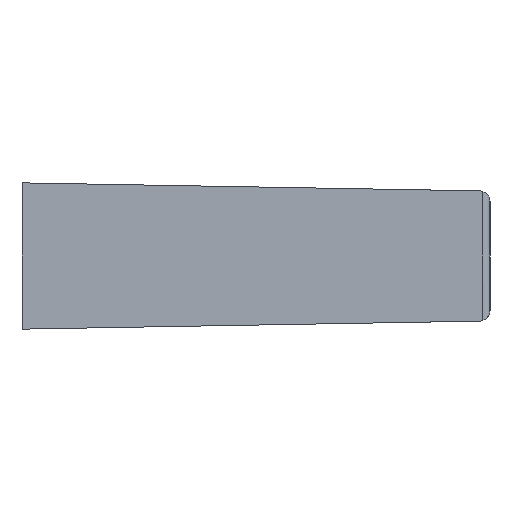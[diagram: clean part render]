
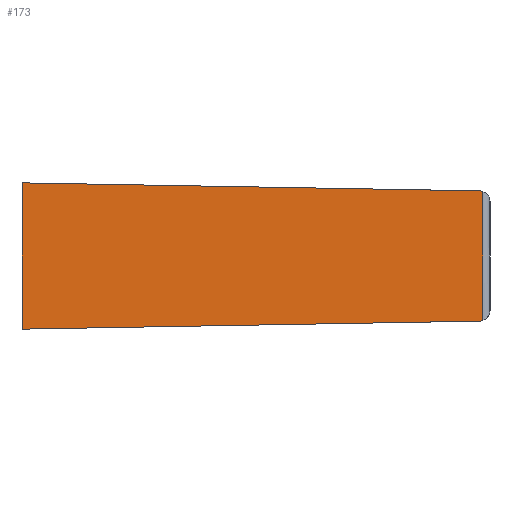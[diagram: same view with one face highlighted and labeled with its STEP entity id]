
A CAD part, left-side view. The second image highlights one B-rep face of the part: STEP entity #173.
In plain terms, the highlighted planar face has unit normal (-0.999, -0.035, 0).
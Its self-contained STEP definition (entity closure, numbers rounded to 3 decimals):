
#145 = VERTEX_POINT( '', #389 );
#147 = EDGE_CURVE( '', #215, #145, #391, .T. );
#155 = EDGE_CURVE( '', #303, #319, #399, .T. );
#173 = ADVANCED_FACE( '', ( #419 ), #420, .T. );
#203 = EDGE_CURVE( '', #319, #263, #452, .T. );
#215 = VERTEX_POINT( '', #465 );
#217 = VERTEX_POINT( '', #467 );
#241 = EDGE_CURVE( '', #217, #303, #491, .T. );
#263 = VERTEX_POINT( '', #514 );
#271 = EDGE_CURVE( '', #145, #217, #523, .T. );
#303 = VERTEX_POINT( '', #560 );
#319 = VERTEX_POINT( '', #579 );
#357 = EDGE_CURVE( '', #215, #263, #623, .T. );
#389 = CARTESIAN_POINT( '', ( -3.908, -31.263, 4.454 ) );
#391 = ELLIPSE( '', #649, 0.75, 0.75 );
#399 = LINE( '', #661, #662 );
#419 = FACE_OUTER_BOUND( '', #691, .T. );
#420 = PLANE( '', #692 );
#452 = ELLIPSE( '', #741, 0.75, 0.75 );
#465 = CARTESIAN_POINT( '', ( -3.899, -31.517, 4.405 ) );
#467 = CARTESIAN_POINT( '', ( -5., 0., 5. ) );
#491 = LINE( '', #795, #796 );
#514 = CARTESIAN_POINT( '', ( -3.899, -31.517, -4.405 ) );
#523 = LINE( '', #844, #845 );
#560 = CARTESIAN_POINT( '', ( -5., 0., -5. ) );
#579 = CARTESIAN_POINT( '', ( -3.908, -31.263, -4.454 ) );
#623 = LINE( '', #999, #1000 );
#649 = AXIS2_PLACEMENT_3D( '', #1029, #1030, #1031 );
#661 = CARTESIAN_POINT( '', ( -4.812, -5.37, -4.906 ) );
#662 = VECTOR( '', #1036, 1. );
#691 = EDGE_LOOP( '', ( #1055, #1056, #1057, #1058, #1059, #1060 ) );
#692 = AXIS2_PLACEMENT_3D( '', #1061, #1062, #1063 );
#741 = AXIS2_PLACEMENT_3D( '', #1091, #1092, #1093 );
#795 = CARTESIAN_POINT( '', ( -5., 0., 5. ) );
#796 = VECTOR( '', #1119, 1. );
#844 = CARTESIAN_POINT( '', ( -4.27, -20.895, 4.635 ) );
#845 = VECTOR( '', #1144, 1. );
#999 = CARTESIAN_POINT( '', ( -3.899, -31.517, 5. ) );
#1000 = VECTOR( '', #1285, 1. );
#1029 = CARTESIAN_POINT( '', ( -3.909, -31.25, 3.704 ) );
#1030 = DIRECTION( '', ( -0.999, -0.035, 0. ) );
#1031 = DIRECTION( '', ( 0.035, -0.999, 0. ) );
#1036 = DIRECTION( '', ( 0.035, -0.999, 0.017 ) );
#1055 = ORIENTED_EDGE( '', *, *, #271, .T. );
#1056 = ORIENTED_EDGE( '', *, *, #241, .T. );
#1057 = ORIENTED_EDGE( '', *, *, #155, .T. );
#1058 = ORIENTED_EDGE( '', *, *, #203, .T. );
#1059 = ORIENTED_EDGE( '', *, *, #357, .F. );
#1060 = ORIENTED_EDGE( '', *, *, #147, .T. );
#1061 = CARTESIAN_POINT( '', ( -5., 0., 5. ) );
#1062 = DIRECTION( '', ( -0.999, -0.035, 0. ) );
#1063 = DIRECTION( '', ( -0.035, 0.999, 0. ) );
#1091 = CARTESIAN_POINT( '', ( -3.909, -31.25, -3.704 ) );
#1092 = DIRECTION( '', ( -0.999, -0.035, 0. ) );
#1093 = DIRECTION( '', ( 0.035, -0.999, 0. ) );
#1119 = DIRECTION( '', ( 0., 0., -1. ) );
#1144 = DIRECTION( '', ( -0.035, 0.999, 0.017 ) );
#1285 = DIRECTION( '', ( 0., 0., -1. ) );
